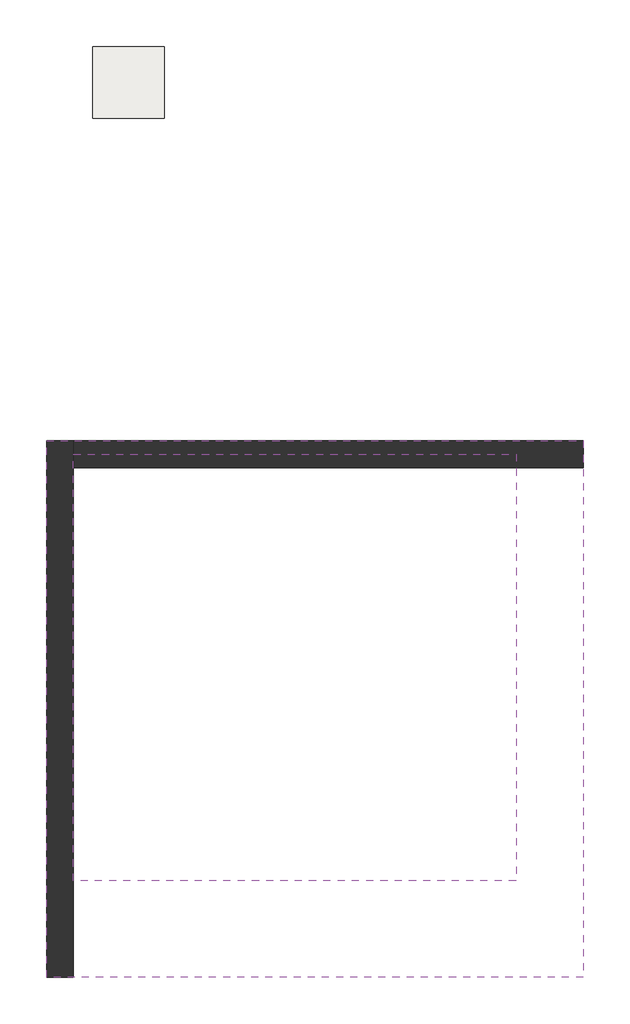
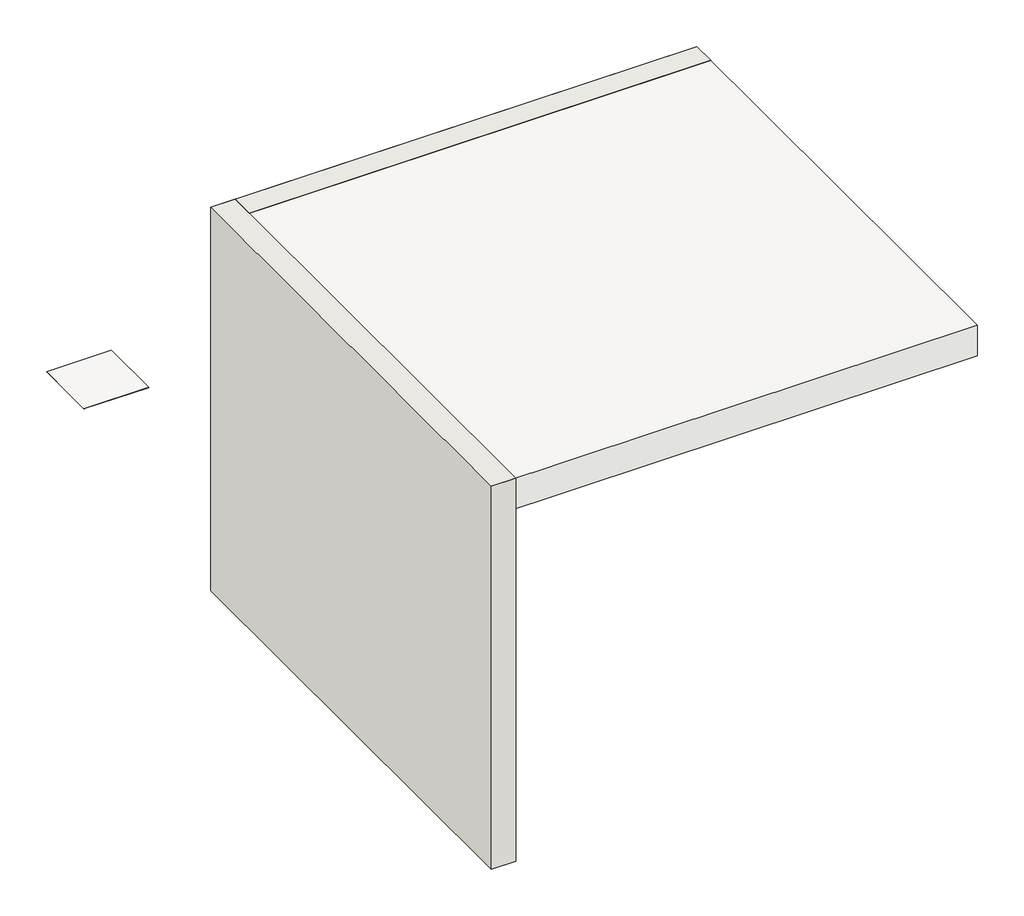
# One storey: 2 walls, 1 covering, 1 proxy, 1 slab.
"""IFC4 building model written with IfcOpenShell, lengths in millimetres."""

from ifc_helpers import new_model, si_unit, frame, origin, place, context, project, spatial, polyline, outline, extrude, faceted_brep, transform, mapped, element, save
from components import generic_models_baf530de

model = new_model("IFC4")

# Units and contexts
model_context = context("Model", 3, world=origin())
ifc_project = project(units=[si_unit("LENGTHUNIT", "METRE", prefix="MILLI")], contexts=[model_context])

# Site, building, storey
site = spatial("IfcSite", under=ifc_project)
building = spatial("IfcBuilding", under=site)
storey = spatial("IfcBuildingStorey", under=building, Name="ARQ Térreo", Elevation=-2.523798)

# Proxy
placement = place(None, origin())
generic_models_shape = generic_models_baf530de(model_context)
element("IfcBuildingElementProxy", 1, Name="IMPER:IMPER:433934 : IMPER:IMPER:433934", ObjectType="IMPER:IMPER:433934 : IMPER:IMPER:433934", at=placement, inside=storey, context=model_context, shape_type="MappedRepresentation", body=[
    mapped(generic_models_shape, transform((0.0, 0.0, 0.0), x_axis=(1.0, 0.0, 0.0), y_axis=(0.0, 1.0, 0.0), z_axis=(0.0, 0.0, 1.0))),
])

# Covering
element("IfcCovering", 2, ObjectType="IMPT - VIAPOXI COAT", at=placement, inside=storey, context=model_context, shape_type="SweptSolid", body=[
    extrude(outline(polyline([(157.0103829, 2350.7680467), (157.0103829, 1950.7680467), (-242.9896171, 1950.7680467), (-242.9896171, 2350.7680467), (157.0103829, 2350.7680467)])), frame((0.0, 0.0, -2.523798), z_axis=(0.0, 0.0, 1.0), x_axis=(1.0, 0.0, 0.0)), (0.0, 0.0, 1.0), 1.0),
])

# Slab
element("IfcSlab", 3, ObjectType="Piso:LAJE CONCRETO", at=placement, inside=storey, context=model_context, shape_type="SweptSolid", body=[
    extrude(outline(polyline([(-501.9704105, 145.8700195), (2498.0295895, 145.8700195), (2498.0295895, -2854.1299805), (-501.9704105, -2854.1299805), (-501.9704105, 145.8700195)])), frame((0.0, 0.0, 2297.476202), z_axis=(0.0, 0.0, 1.0), x_axis=(1.0, 0.0, 0.0)), (0.0, 0.0, 1.0), 200.0),
])

# Walls
element("IfcWall", 4, ObjectType="Parede básica:Parede Concreto", at=placement, inside=storey, context=model_context, shape_type="Brep", body=[
    faceted_brep([(-501.9704105, 145.8700195, -2.523798), (-501.9704105, -2854.1299805, -2.523798), (-501.9704105, -2854.1299805, 2497.476202), (-501.9704105, 145.8700195, 2497.476202), (-351.9704105, 145.8700195, -2.523798), (-351.9704105, 145.8700195, 2497.476202), (-351.9704105, -4.1299805, 2497.476202), (-351.9704105, -2854.1299805, 2497.476202), (-351.9704105, -2854.1299805, -2.523798), (-351.9704105, -4.1299805, -2.523798)], [[[0, 1, 2, 3]], [[4, 5, 6, 7, 8, 9]], [[1, 0, 4, 9, 8]], [[2, 1, 8, 7]], [[3, 2, 7, 6, 5]], [[0, 3, 5, 4]]]),
])
element("IfcWall", 5, ObjectType="Parede básica:Parede Concreto", at=placement, inside=storey, context=model_context, shape_type="SweptSolid", body=[
    extrude(outline(polyline([(-351.9704105, 145.8700195), (2498.0295895, 145.8700195), (2498.0295895, -4.1299805), (-351.9704105, -4.1299805), (-351.9704105, 145.8700195)])), frame((0.0, 0.0, -2.523798), z_axis=(0.0, 0.0, 1.0), x_axis=(1.0, 0.0, 0.0)), (0.0, 0.0, 1.0), 2500.0),
])

save(model, "model.ifc")
